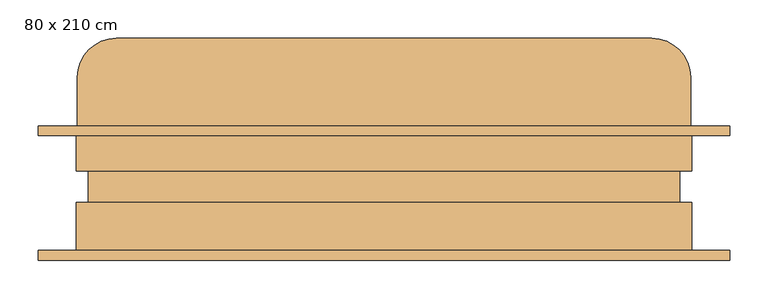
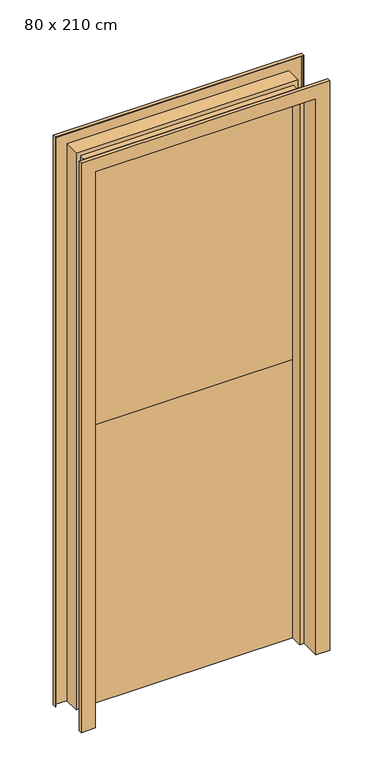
"""IFC4 building model written with IfcOpenShell, lengths in millimetres: door geometry, Dutch_door_-_2_stacked_leaves_2298 : 80 x 210 cm."""

from ifc_helpers import new_model, si_unit, frame, origin, place, context, project, spatial, polyline, circle_curve, outline, extrude, faceted_brep, source, transform, mapped, element, save
from ifc_brep_helpers import plane_surface, cylinder_surface, advanced_brep


def door_80_x_210_cm_69db3ced(model_context):
    return source(origin(), model_context, "Body", "SolidModel", [
        faceted_brep([(-450.8, -87.7, 0.0), (-450.8, -75.0, 0.0), (-449.2125, -75.0, 0.0), (-449.2125, -86.1125, 0.0), (-401.5875, -86.1125, 0.0), (-401.5875, -12.3125, 0.0), (-385.7125, -12.3125, 0.0), (-385.7125, 28.9625, 0.0), (-401.5875, 28.9625, 0.0), (-401.5875, 86.1125, 0.0), (-449.2125, 86.1125, 0.0), (-449.2125, 75.0, 0.0), (-450.8, 75.0, 0.0), (-450.8, 87.7, 0.0), (-400.0, 87.7, 0.0), (-400.0, 30.55, 0.0), (-384.125, 30.55, 0.0), (-384.125, -13.9, 0.0), (-400.0, -13.9, 0.0), (-400.0, -87.7, 0.0), (-450.8, -87.7, 2184.4), (-450.8, -75.0, 2184.4), (450.8, -75.0, 2184.4), (450.8, -75.0, 0.0), (449.2125, -75.0, 0.0), (449.2125, -75.0, 2182.8125), (-449.2125, -75.0, 2182.8125), (-449.2125, -86.1125, 2182.8125), (449.2125, -86.1125, 2182.8125), (449.2125, -86.1125, 0.0), (401.5875, -86.1125, 0.0), (401.5875, -86.1125, 2135.1875), (-401.5875, -86.1125, 2135.1875), (-401.5875, -12.3125, 2135.1875), (401.5875, -12.3125, 2135.1875), (401.5875, -12.3125, 0.0), (385.7125, -12.3125, 0.0), (385.7125, -12.3125, 2119.3125), (-385.7125, -12.3125, 2119.3125), (-385.7125, 28.9625, 2119.3125), (385.7125, 28.9625, 2119.3125), (385.7125, 28.9625, 0.0), (401.5875, 28.9625, 0.0), (401.5875, 28.9625, 2135.1875), (-401.5875, 28.9625, 2135.1875), (-401.5875, 86.1125, 2135.1875), (401.5875, 86.1125, 2135.1875), (401.5875, 86.1125, 0.0), (449.2125, 86.1125, 0.0), (449.2125, 86.1125, 2182.8125), (-449.2125, 86.1125, 2182.8125), (-449.2125, 75.0, 2182.8125), (449.2125, 75.0, 2182.8125), (449.2125, 75.0, 0.0), (450.8, 75.0, 0.0), (450.8, 75.0, 2184.4), (-450.8, 75.0, 2184.4), (-450.8, 87.7, 2184.4), (450.8, 87.7, 2184.4), (450.8, 87.7, 0.0), (400.0, 87.7, 0.0), (400.0, 87.7, 2133.6), (-400.0, 87.7, 2133.6), (-400.0, 30.55, 2133.6), (400.0, 30.55, 2133.6), (400.0, 30.55, 0.0), (384.125, 30.55, 0.0), (384.125, 30.55, 2117.725), (-384.125, 30.55, 2117.725), (-384.125, -13.9, 2117.725), (384.125, -13.9, 2117.725), (384.125, -13.9, 0.0), (400.0, -13.9, 0.0), (400.0, -13.9, 2133.6), (-400.0, -13.9, 2133.6), (-400.0, -87.7, 2133.6), (400.0, -87.7, 2133.6), (400.0, -87.7, 0.0), (450.8, -87.7, 0.0), (450.8, -87.7, 2184.4)], [[[0, 1, 2, 3, 4, 5, 6, 7, 8, 9, 10, 11, 12, 13, 14, 15, 16, 17, 18, 19]], [[1, 0, 20, 21]], [[2, 1, 21, 22, 23, 24, 25, 26]], [[3, 2, 26, 27]], [[4, 3, 27, 28, 29, 30, 31, 32]], [[5, 4, 32, 33]], [[6, 5, 33, 34, 35, 36, 37, 38]], [[7, 6, 38, 39]], [[8, 7, 39, 40, 41, 42, 43, 44]], [[9, 8, 44, 45]], [[10, 9, 45, 46, 47, 48, 49, 50]], [[11, 10, 50, 51]], [[12, 11, 51, 52, 53, 54, 55, 56]], [[13, 12, 56, 57]], [[14, 13, 57, 58, 59, 60, 61, 62]], [[15, 14, 62, 63]], [[16, 15, 63, 64, 65, 66, 67, 68]], [[17, 16, 68, 69]], [[18, 17, 69, 70, 71, 72, 73, 74]], [[19, 18, 74, 75]], [[0, 19, 75, 76, 77, 78, 79, 20]], [[22, 79, 78, 23]], [[78, 77, 72, 71, 66, 65, 60, 59, 54, 53, 48, 47, 42, 41, 36, 35, 30, 29, 24, 23]], [[28, 25, 24, 29]], [[34, 31, 30, 35]], [[40, 37, 36, 41]], [[46, 43, 42, 47]], [[52, 49, 48, 53]], [[58, 55, 54, 59]], [[64, 61, 60, 65]], [[70, 67, 66, 71]], [[76, 73, 72, 77]], [[21, 20, 79, 22]], [[27, 26, 25, 28]], [[33, 32, 31, 34]], [[39, 38, 37, 40]], [[45, 44, 43, 46]], [[51, 50, 49, 52]], [[57, 56, 55, 58]], [[63, 62, 61, 64]], [[69, 68, 67, 70]], [[75, 74, 73, 76]]]),
        extrude(outline(polyline([(400.0, 30.55), (-400.0, 30.55), (-400.0, 75.0), (400.0, 75.0), (400.0, 30.55)])), frame((0.0, 0.0, 1066.8), z_axis=(0.0, 0.0, 1.0), x_axis=(1.0, 0.0, 0.0)), (0.0, 0.0, 1.0), 1066.8),
        advanced_brep(
        [(400.0, 30.55, 0.0), (400.0, 30.55, 1066.8), (-400.0, 30.55, 1066.8), (-400.0, 30.55, 0.0), (400.0, 75.0, 0.0), (-400.0, 75.0, 0.0), (-400.0, 75.0, 1040.6391515), (400.0, 75.0, 1040.6391515), (400.0, 151.3516411, 1066.8), (349.2, 202.1516411, 1066.8), (-349.2, 202.1516411, 1066.8), (-400.0, 151.3516411, 1066.8), (-400.0, 151.3516411, 1040.6391515), (400.0, 151.3516411, 1040.6391515), (-349.2, 202.1516411, 1040.6391515), (349.2, 202.1516411, 1040.6391515)],
        [
            (0, 1),
            (1, 2),
            (2, 3),
            (3, 0),
            (4, 5),
            (5, 6),
            (6, 7),
            (7, 4),
            (1, 8),
            (8, 9, circle_curve(frame((349.2, 151.3516411, 1066.8), z_axis=(0.0, 0.0, 1.0), x_axis=(1.0, 0.0, 0.0)), 50.8)),
            (9, 10),
            (10, 11, circle_curve(frame((-349.2, 151.3516411, 1066.8), z_axis=(0.0, 0.0, 1.0), x_axis=(1.0, 0.0, 0.0)), 50.8)),
            (11, 2),
            (11, 12),
            (12, 6),
            (5, 3),
            (4, 0),
            (7, 13),
            (13, 8),
            (12, 14, circle_curve(frame((-349.2, 151.3516411, 1040.6391515), z_axis=(0.0, 0.0, -1.0), x_axis=(1.0, 0.0, 0.0)), 50.8)),
            (14, 15),
            (15, 13, circle_curve(frame((349.2, 151.3516411, 1040.6391515), z_axis=(0.0, 0.0, -1.0), x_axis=(1.0, 0.0, 0.0)), 50.8)),
            (15, 9),
            (14, 10),
        ],
        [
            plane_surface(frame((-400.0, 30.55, 1066.8), z_axis=(0.0, -1.0, 0.0), x_axis=(-1.0, 0.0, 0.0))),
            plane_surface(frame((-400.0, 75.0, 1066.8), z_axis=(0.0, 1.0, 0.0), x_axis=(1.0, 0.0, 0.0))),
            plane_surface(frame((400.0, 30.55, 1066.8), z_axis=(0.0, 0.0, 1.0), x_axis=(0.0, 1.0, 0.0))),
            plane_surface(frame((-400.0, 30.55, 1066.8), z_axis=(-1.0, 0.0, 0.0), x_axis=(0.0, 1.0, 0.0))),
            plane_surface(frame((-400.0, 30.55, 0.0), z_axis=(0.0, 0.0, -1.0), x_axis=(0.0, 1.0, 0.0))),
            plane_surface(frame((400.0, 30.55, 0.0), z_axis=(1.0, 0.0, 0.0), x_axis=(0.0, 1.0, 0.0))),
            plane_surface(frame((400.0, 30.55, 1040.6391515), z_axis=(0.0, 0.0, -1.0), x_axis=(0.0, -1.0, 0.0))),
            cylinder_surface(frame((349.2, 151.3516411, 1040.6391515), z_axis=(0.0, 0.0, 1.0), x_axis=(1.0, 0.0, 0.0)), 50.8),
            plane_surface(frame((349.2, 202.1516411, 1066.8), z_axis=(0.0, 1.0, 0.0), x_axis=(0.0, 0.0, -1.0))),
            cylinder_surface(frame((-349.2, 151.3516411, 1040.6391515), z_axis=(0.0, 0.0, 1.0), x_axis=(1.0, 0.0, 0.0)), 50.8),
        ],
        [
            (0, [[1, 2, 3, 4]]),
            (1, [[5, 6, 7, 8]]),
            (2, [[-2, 9, 10, 11, 12, 13]]),
            (3, [[-13, 14, 15, -6, 16, -3]]),
            (4, [[-4, -16, -5, 17]]),
            (5, [[-9, -1, -17, -8, 18, 19]]),
            (6, [[20, 21, 22, -18, -7, -15]]),
            (7, [[-10, -19, -22, 23]]),
            (8, [[-11, -23, -21, 24]]),
            (9, [[-12, -24, -20, -14]]),
        ],
    ),
    ])


if __name__ == "__main__":
    model = new_model("IFC4")
    model_context = context("Model", 3, world=origin())
    ifc_project = project(units=[si_unit("LENGTHUNIT", "METRE", prefix="MILLI")], contexts=[model_context])
    site = spatial("IfcSite", under=ifc_project)
    building = spatial("IfcBuilding", under=site)
    placement = place(None, origin())
    door_80_x_210_cm_shape = door_80_x_210_cm_69db3ced(model_context)
    element("IfcDoor", 1, ObjectType="Dutch_door_-_2_stacked_leaves_2298 : 80 x 210 cm", at=placement, inside=building, context=model_context, shape_type="MappedRepresentation", body=[
        mapped(door_80_x_210_cm_shape, transform((0.0, 0.0, 0.0), x_axis=(1.0, 0.0, 0.0), y_axis=(0.0, 1.0, 0.0), z_axis=(0.0, 0.0, 1.0))),
    ])
    save(model, "model.ifc")
